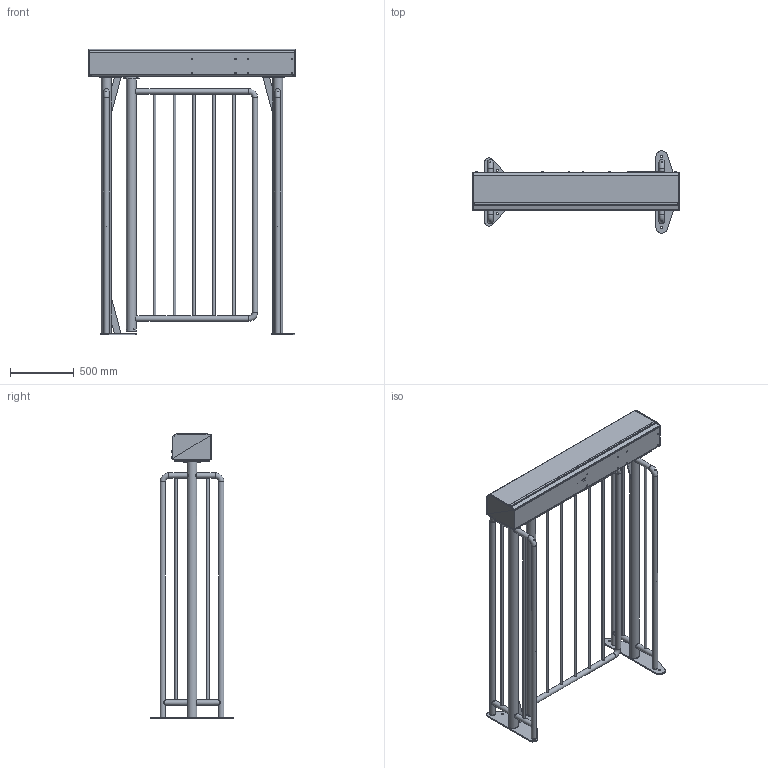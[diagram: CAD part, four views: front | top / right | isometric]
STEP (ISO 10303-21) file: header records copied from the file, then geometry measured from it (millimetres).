
FILE_DESCRIPTION(/* description */ ('KPW JC004 closed'),/* implementation_level */ '2;1');
FILE_NAME(/* name */ 'MPG172C-A100',/* time_stamp */ '2021-02-25T13:48:13+01:00',/* author */ ('Unknown'),/* organization */ ('Unknown'),/* preprocessor_version */ 'ST-DEVELOPER v16.7',/* originating_system */ 'DEX',/* authorisation */ $);
FILE_SCHEMA (('AUTOMOTIVE_DESIGN {1 0 10303 214 3 1 1}'));
Length unit declared in the file: millimetre
Products named in the file (63): MPG172C-A100; 20595127_oa_0; 20595127a; 20595127d; 20595127b; 20595144; 20645047; 20525114; 20575049; 20645046; 20575043; 20585030; 20525058; 20595155; 20645057; 34905009; 20595131; 20525116; 20645025; 20575033; 10085045; 20295121; 20295121a; 20295121b; Einpress-Gewindebolzen-M4x12; 20435304; 20435304a; gewindeschweissbolzen_m4x12; Schweißbolzen_D5x8; 34680028; 34680028a; 20580026; 34680028c; 34680028b; 34680028d; 32425001; 31475003; 35000014; 34840075; 30980030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
Assembly tree (127 placements, depth 4):
  MPG172C-A100
    20595127_oa_0
      20595127a
      20595127d
      20595127b
    20595144
      20645047
      20525114
      20575049  x2
      20645046
      20575043  x2
      20585030  x2
      20525058  x2
    20595155
      20645057
      20525114
      20575049  x2
      20645046
      20575043  x2
      20525058  x2
      20585030
    34905009  x4
    20595131
      20525116
      20645025
      20525058  x5
      20575033
    10085045
      20295121
        20295121a
        20295121b
        Einpress-Gewindebolzen-M4x12
      20435304
        20435304a
        gewindeschweissbolzen_m4x12
        Schweißbolzen_D5x8  x2
      34680028
        34680028a
        20580026
        34680028c
        34680028b
        34680028d
      32425001  x2
      31475003
      35000014  x4
      34840075  x4
      30980030  x4
      20180332
      33300014  x2
      34950006  x2
      34980023  x2
      33060012  x4
      34980004  x4
      20186013
    35000014  x2
    33060033  x4
    34905010  x3
    34905003  x2
    30195008  x4
    33070008  x2
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Bounding box: 1623 x 644.95 x 2234.99 mm (x, y, z)
Volume: 22511197.4 mm3; surface area: 12427169.3 mm2
Topology: 126 solids, 127 shells, 2011 faces, 4823 edges, 3125 vertices
Faces by surface type: plane 1094, cylinder 516, cone 307, bspline 50, torus 43, sphere 1
Full cylindrical faces by diameter (mm): 0.1 x11, 1 x7, 1.7 x2, 3 x2, 3.3 x4, 4 x4, 4.019 x4, 4.02 x2, 4.2 x10, 4.3 x4, 4.5 x5, 5 x16, 5.3 x16, 5.5 x2, 5.9 x1, 6 x2, 6.4 x2, 6.5 x1, 6.8 x3, 7 x2, 8 x8, 8.376 x4, 8.5 x17, 9 x4, 10 x7, 10.106 x12, 10.156 x4, 10.2 x1, 10.5 x2, 11 x2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
Entity records: 36082 total; most frequent: CARTESIAN_POINT 8788, DIRECTION 5121, ORIENTED_EDGE 4806, EDGE_CURVE 2403, AXIS2_PLACEMENT_3D 1844, VERTEX_POINT 1699, FACE_BOUND 1576, EDGE_LOOP 1575
